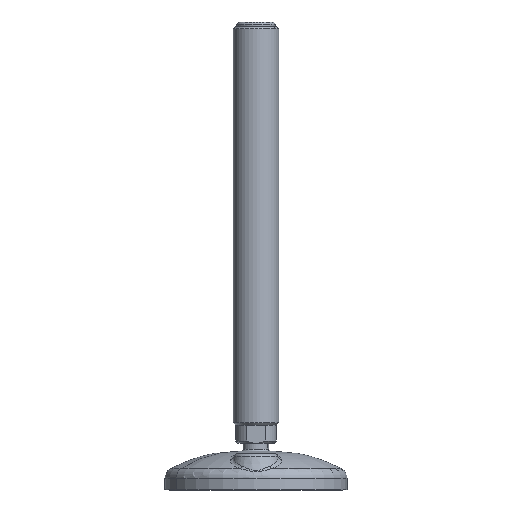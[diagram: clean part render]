
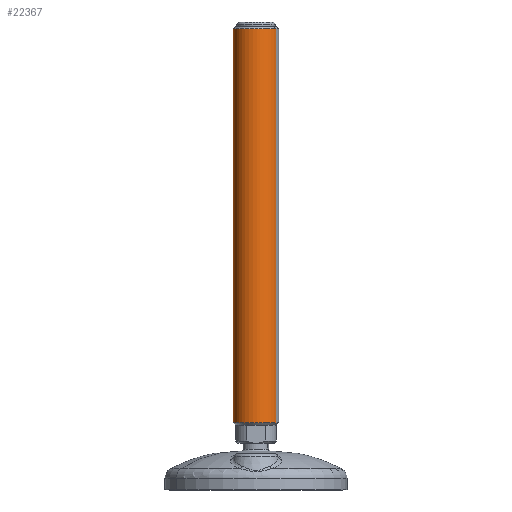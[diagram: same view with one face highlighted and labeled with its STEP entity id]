
A CAD part, left-side view. The second image highlights one B-rep face of the part: STEP entity #22367.
In plain terms, the highlighted cylindrical face has radius 10 mm (diameter 20 mm), a partial arc.
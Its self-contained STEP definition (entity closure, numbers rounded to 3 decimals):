
#22153=CARTESIAN_POINT('Vertex',(4.794,8.776,189.)) ;
#22155=CARTESIAN_POINT('Vertex',(-4.794,-8.776,189.)) ;
#22184=CARTESIAN_POINT('Axis2P3D Location',(0.,0.,189.)) ;
#22325=CARTESIAN_POINT('Axis2P3D Location',(0.,0.,92.375)) ;
#22330=CARTESIAN_POINT('Line Origine',(4.794,8.776,102.)) ;
#22334=CARTESIAN_POINT('Vertex',(4.794,8.776,16.)) ;
#22337=CARTESIAN_POINT('Line Origine',(-4.794,-8.776,102.)) ;
#22341=CARTESIAN_POINT('Vertex',(-4.794,-8.776,16.)) ;
#22356=CARTESIAN_POINT('Axis2P3D Location',(0.,0.,16.)) ;
#22185=DIRECTION('Axis2P3D Direction',(0.,0.,-1.)) ;
#22326=DIRECTION('Axis2P3D Direction',(0.,0.,-1.)) ;
#22327=DIRECTION('Axis2P3D XDirection',(0.479,0.878,0.)) ;
#22331=DIRECTION('Vector Direction',(0.,0.,-1.)) ;
#22338=DIRECTION('Vector Direction',(0.,0.,-1.)) ;
#22357=DIRECTION('Axis2P3D Direction',(0.,0.,-1.)) ;
#22186=AXIS2_PLACEMENT_3D('Circle Axis2P3D',#22184,#22185,$) ;
#22328=AXIS2_PLACEMENT_3D('Cylinder Axis2P3D',#22325,#22326,#22327) ;
#22358=AXIS2_PLACEMENT_3D('Circle Axis2P3D',#22356,#22357,$) ;
#22362=ORIENTED_EDGE('',*,*,#22343,.T.) ;
#22363=ORIENTED_EDGE('',*,*,#22188,.T.) ;
#22364=ORIENTED_EDGE('',*,*,#22336,.F.) ;
#22365=ORIENTED_EDGE('',*,*,#22360,.F.) ;
#22332=VECTOR('Line Direction',#22331,1.) ;
#22339=VECTOR('Line Direction',#22338,1.) ;
#22367=ADVANCED_FACE('PartBody',(#22366),#22329,.T.) ;
#22187=CIRCLE('generated circle',#22186,10.) ;
#22359=CIRCLE('generated circle',#22358,10.) ;
#22329=CYLINDRICAL_SURFACE('generated cylinder',#22328,10.) ;
#22188=EDGE_CURVE('',#22156,#22154,#22187,.T.) ;
#22336=EDGE_CURVE('',#22335,#22154,#22333,.F.) ;
#22343=EDGE_CURVE('',#22342,#22156,#22340,.F.) ;
#22360=EDGE_CURVE('',#22342,#22335,#22359,.T.) ;
#22361=EDGE_LOOP('',(#22362,#22363,#22364,#22365)) ;
#22366=FACE_OUTER_BOUND('',#22361,.T.) ;
#22333=LINE('Line',#22330,#22332) ;
#22340=LINE('Line',#22337,#22339) ;
#22154=VERTEX_POINT('',#22153) ;
#22156=VERTEX_POINT('',#22155) ;
#22335=VERTEX_POINT('',#22334) ;
#22342=VERTEX_POINT('',#22341) ;
